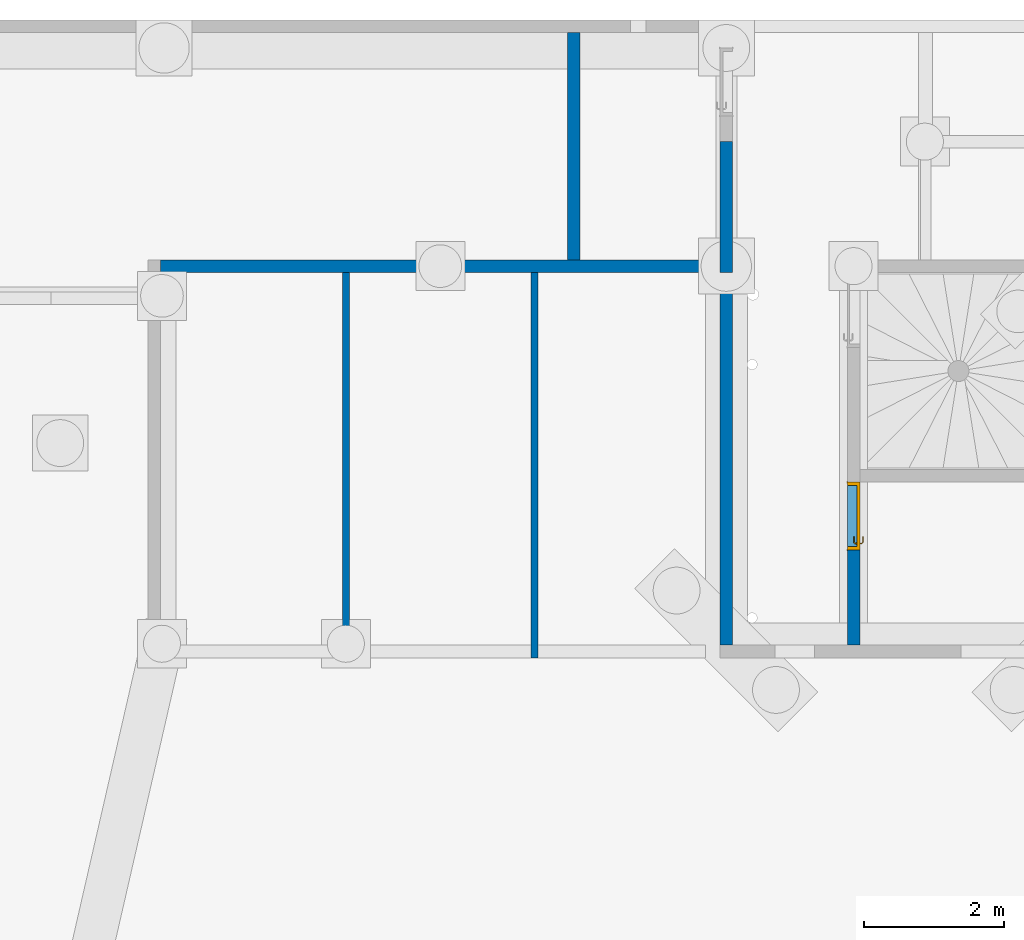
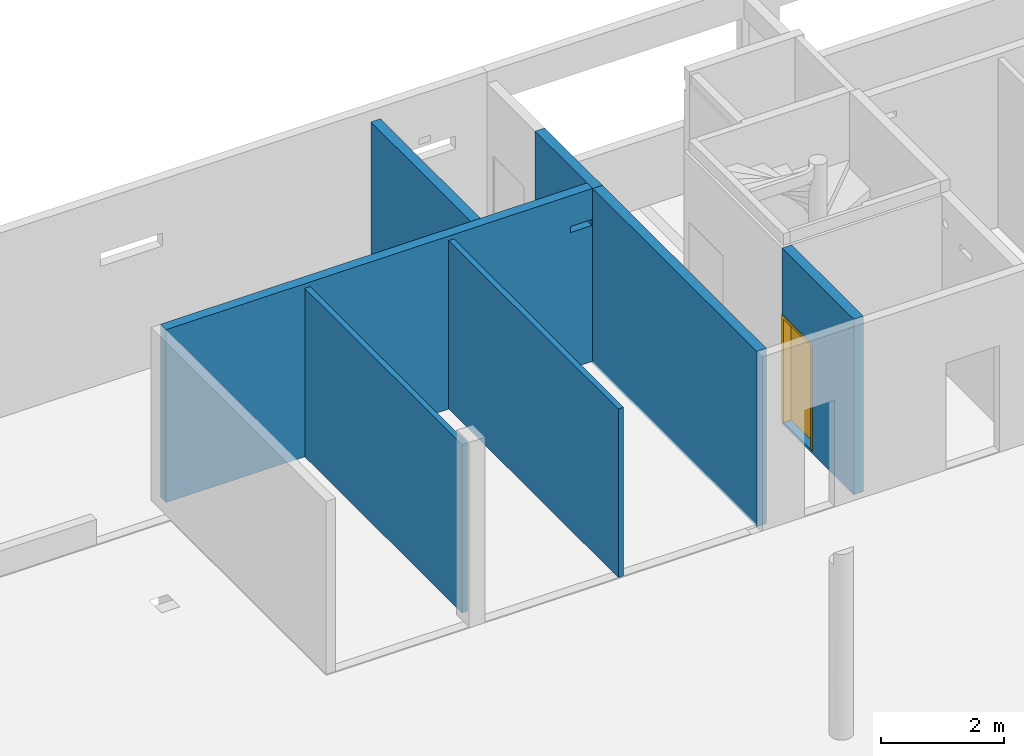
# One storey, part 5 of 29: 7 walls, 1 door, 2 openings.
"""IFC2X3 building model written with IfcOpenShell, lengths in centimetres."""

from ifc_helpers import new_model, entity, si_unit, converted_unit, derived_unit, direction, frame, frame_2d, origin, place, context, subcontext, project, spatial, rectangle, extrude, faceted_brep, source, transform, mapped, material, material_list, layer, layer_set, layer_usage, type_object, type_shapes, element, fill, save


model = new_model("IFC2X3")

# Units and contexts
model_context = context("Model", 3, precision=0.001, world=origin(), true_north=direction((6.12303176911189e-17, 1.0)))
body_context = subcontext(model_context, "Body", "Model", "MODEL_VIEW")
ifc_project = project(units=[si_unit("LENGTHUNIT", "METRE", prefix="CENTI"), si_unit("AREAUNIT", "SQUARE_METRE"), si_unit("VOLUMEUNIT", "CUBIC_METRE"), converted_unit("PLANEANGLEUNIT", "DEGREE", entity("IfcRatioMeasure", 0.0174532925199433), si_unit("PLANEANGLEUNIT", "RADIAN"), dimensions=[0, 0, 0, 0, 0, 0, 0]), si_unit("MASSUNIT", "GRAM", prefix="KILO"), derived_unit("MASSDENSITYUNIT", [(si_unit("MASSUNIT", "GRAM", prefix="KILO"), 1), (si_unit("LENGTHUNIT", "METRE"), -3)]), si_unit("TIMEUNIT", "SECOND"), si_unit("FREQUENCYUNIT", "HERTZ"), si_unit("THERMODYNAMICTEMPERATUREUNIT", "DEGREE_CELSIUS"), derived_unit("THERMALTRANSMITTANCEUNIT", [(si_unit("MASSUNIT", "GRAM", prefix="KILO"), 1), (si_unit("THERMODYNAMICTEMPERATUREUNIT", "KELVIN"), -1), (si_unit("TIMEUNIT", "SECOND"), -3)]), derived_unit("VOLUMETRICFLOWRATEUNIT", [(si_unit("LENGTHUNIT", "METRE"), 3), (si_unit("TIMEUNIT", "SECOND"), -1)]), si_unit("ELECTRICCURRENTUNIT", "AMPERE"), si_unit("ELECTRICVOLTAGEUNIT", "VOLT"), si_unit("POWERUNIT", "WATT"), si_unit("FORCEUNIT", "NEWTON"), si_unit("ILLUMINANCEUNIT", "LUX"), si_unit("LUMINOUSFLUXUNIT", "LUMEN"), si_unit("LUMINOUSINTENSITYUNIT", "CANDELA"), derived_unit("USERDEFINED", [(si_unit("MASSUNIT", "GRAM", prefix="KILO"), -1), (si_unit("LENGTHUNIT", "METRE"), -2), (si_unit("TIMEUNIT", "SECOND"), 3), (si_unit("LUMINOUSFLUXUNIT", "LUMEN"), 1)]), derived_unit("LINEARVELOCITYUNIT", [(si_unit("LENGTHUNIT", "METRE"), 1), (si_unit("TIMEUNIT", "SECOND"), -1)]), si_unit("PRESSUREUNIT", "PASCAL"), derived_unit("USERDEFINED", [(si_unit("LENGTHUNIT", "METRE"), -2), (si_unit("MASSUNIT", "GRAM", prefix="KILO"), 1), (si_unit("TIMEUNIT", "SECOND"), -2)])], contexts=[model_context])

# Site, building, storey
site_placement = place(None, origin())
site = spatial("IfcSite", under=ifc_project, at=site_placement, Name="Default", CompositionType="ELEMENT")
building_placement = place(site_placement, origin())
building = spatial("IfcBuilding", under=site, at=building_placement, Name="CAGE 03", CompositionType="ELEMENT")
storey_placement = place(building_placement, frame((0.0, 0.0, -26.0)))
storey = spatial("IfcBuildingStorey", under=building, at=storey_placement, Name="+3.74", CompositionType="ELEMENT", Elevation=-26.0000000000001)

# Walls
ifc_material_1 = material(Name="Béton, C25/30")
ifc_layer_1 = layer(ifc_material_1, 18.0)
ifc_layer_set_1 = layer_set([ifc_layer_1], Name="Mur de base:Voile BA 18")
ifc_layer_usage_1 = layer_usage(ifc_layer_set_1, "AXIS2", "NEGATIVE", 9.0)
wall_type_1 = type_object("IfcWallType", Name="Mur de base:Voile BA 18", PredefinedType="STANDARD", material=ifc_layer_set_1)
wall_1_placement = place(storey_placement, frame((6840.36582014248, 5119.6606660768, -5.0), z_axis=(0.0, 0.0, 1.0), x_axis=(0.0, -1.0, 0.0)))
element("IfcWallStandardCase", 1, at=wall_1_placement, inside=storey, type_object=wall_type_1, material=ifc_layer_usage_1, Name="Mur de base:Voile BA 18", ObjectType="Mur de base:Voile BA 18", context=body_context, shape_type="SweptSolid", body=[
    extrude(rectangle(XDim=187.0, YDim=17.9999999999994, at=frame_2d((93.5, -1.03916875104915e-13), x_axis=(-1.0, 0.0))), origin(), (0.0, 0.0, 1.0), 348.0),
])
ifc_layer_usage_2 = layer_usage(ifc_layer_set_1, "AXIS2", "POSITIVE", -9.0)
wall_2_placement = place(storey_placement, frame((6622.36582014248, 4950.6606660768, 0.0), z_axis=(0.0, 0.0, 1.0), x_axis=(0.0, 1.0, 0.0)))
element("IfcWallStandardCase", 2, at=wall_2_placement, inside=storey, type_object=wall_type_1, material=ifc_layer_usage_2, Name="Mur de base:Voile BA 18", ObjectType="Mur de base:Voile BA 18", context=body_context, shape_type="SweptSolid", body=[
    extrude(rectangle(XDim=324.999999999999, YDim=17.9999999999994, at=frame_2d((162.499999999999, 2.97539770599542e-13), x_axis=(-1.0, 0.0))), origin(), (0.0, 0.0, 1.0), 343.0),
])

# Wall, opening
ifc_layer_usage_3 = layer_usage(ifc_layer_set_1, "AXIS2", "NEGATIVE", 9.0)
wall_3_placement = place(storey_placement, frame((6831.36582014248, 4941.6606660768, 0.0), z_axis=(0.0, 0.0, 1.0), x_axis=(-1.0, 0.0, 0.0)))
wall_3 = element("IfcWallStandardCase", 3, at=wall_3_placement, inside=storey, type_object=wall_type_1, material=ifc_layer_usage_3, Name="Mur de base:Voile BA 18", ObjectType="Mur de base:Voile BA 18", context=body_context, shape_type="SweptSolid", body=[
    extrude(rectangle(XDim=799.999999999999, YDim=17.9999999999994, at=frame_2d((400.0, -5.59552404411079e-14), x_axis=(-1.0, 0.0))), origin(), (0.0, 0.0, 1.0), 343.0),
])
opening_1_placement = place(storey_placement, frame((6831.36582014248, 4941.6606660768, 0.0), z_axis=(0.0, 0.0, 1.0), x_axis=(-1.0, 0.0, 0.0)))
element("IfcOpeningElement", 4, at=opening_1_placement, cuts=wall_3, Name="Mur de base:Voile BA 18:1", ObjectType="Opening", context=body_context, shape_type="SweptSolid", body=[
    extrude(rectangle(XDim=18.0000000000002, YDim=39.9999999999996, at=frame_2d((8.66862137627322e-13, 8.66862137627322e-13), x_axis=(1.0, 0.0))), frame((21.7507290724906, 0.0, 269.951580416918), z_axis=(0.0, 0.0, 1.0), x_axis=(0.0, -1.0, 0.0)), (0.0, 0.0, 1.0), 12.0),
])

# Wall, opening, door
ifc_layer_usage_4 = layer_usage(ifc_layer_set_1, "AXIS2", "POSITIVE", -9.0)
wall_4_placement = place(storey_placement, frame((7022.36582014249, 4632.6606660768, -5.0), z_axis=(0.0, 0.0, 1.0), x_axis=(0.0, -1.0, 0.0)))
wall_4 = element("IfcWallStandardCase", 5, at=wall_4_placement, inside=storey, type_object=wall_type_1, material=ifc_layer_usage_4, Name="Mur de base:Voile BA 18", ObjectType="Mur de base:Voile BA 18", context=body_context, shape_type="SweptSolid", body=[
    extrude(rectangle(XDim=233.000000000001, YDim=17.9999999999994, at=frame_2d((116.5, 2.1138646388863e-13), x_axis=(-1.0, 0.0))), origin(), (0.0, 0.0, 1.0), 348.0),
])
opening_2_placement = place(wall_4_placement, frame((0.0, -9.0, 5.0)))
opening_2 = element("IfcOpeningElement", 6, at=opening_2_placement, cuts=wall_4, Name="Int. Simple:HB93:1", ObjectType="Opening", context=body_context, shape_type="SweptSolid", body=[
    extrude(rectangle(XDim=210.000000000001, YDim=96.9999999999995, at=frame_2d((105.000000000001, 48.4999999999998), x_axis=(1.0, 0.0))), frame((0.0, 0.0, 0.0), z_axis=(0.0, 1.0, 0.0), x_axis=(0.0, 0.0, 1.0)), (0.0, 0.0, 1.0), 18.0),
])
ifc_material_2 = material(Name="Finition Peinture - Blanc satiné")
ifc_material_3 = material(Name="Bois - Panneau de porte")
ifc_material_4 = material(Name="Bois - Cadre de porte")
ifc_material_list_1 = material_list([ifc_material_2, ifc_material_3, ifc_material_4])
ifc_material_list_2 = material_list([ifc_material_2, ifc_material_3, ifc_material_4])
door_style = type_object("IfcDoorStyle", Name="HB93", ConstructionType="NOTDEFINED", OperationType="SINGLE_SWING_LEFT", ParameterTakesPrecedence=False, Sizeable=False, material=ifc_material_list_2)
shared_shape = source(origin(), body_context, "Body", "Brep", [
    faceted_brep([(10.5352761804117, -0.500000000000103, 86.6003983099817), (11.5000000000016, -0.500000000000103, 87.0), (11.5000000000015, -0.500000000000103, 108.0), (10.5352761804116, -0.500000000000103, 108.399601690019), (9.50000000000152, -0.500000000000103, 108.535898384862), (8.46472381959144, -0.500000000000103, 108.399601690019), (7.50000000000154, -0.500000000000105, 108.0), (7.50000000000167, -0.500000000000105, 87.0), (8.46472381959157, -0.500000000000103, 86.6003983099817), (9.50000000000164, -0.500000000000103, 86.464101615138), (10.5352761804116, 0.0, 108.399601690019), (11.5000000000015, 0.0, 108.0), (11.5000000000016, 0.0, 87.0), (10.5352761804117, 0.0, 86.6003983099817), (9.50000000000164, 0.0, 86.464101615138), (8.46472381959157, 0.0, 86.6003983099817), (7.50000000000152, 0.0, 87.0), (7.50000000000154, 0.0, 108.0), (8.46472381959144, 0.0, 108.399601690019), (9.50000000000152, 0.0, 108.535898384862)], [[[0, 1, 2, 3, 4, 5, 6, 7, 8, 9]], [[10, 11, 12, 13, 14, 15, 16, 17, 18, 19]], [[16, 15, 8, 7]], [[8, 15, 14, 9]], [[14, 13, 0, 9]], [[13, 12, 1, 0]], [[2, 1, 12, 11]], [[11, 10, 3, 2]], [[3, 10, 19, 4]], [[19, 18, 5, 4]], [[18, 17, 6, 5]], [[7, 6, 17, 16]]]),
    faceted_brep([(10.5352761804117, 4.0, 86.6003983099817), (11.5000000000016, 4.0, 87.0), (11.5000000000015, 4.0, 108.0), (10.5352761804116, 4.0, 108.399601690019), (9.50000000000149, 4.0, 108.535898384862), (8.46472381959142, 4.0, 108.399601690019), (7.50000000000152, 4.0, 108.0), (7.50000000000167, 4.0, 87.0), (8.46472381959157, 4.0, 86.6003983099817), (9.50000000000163, 4.0, 86.464101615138), (10.5352761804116, 4.49999999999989, 108.399601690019), (11.5000000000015, 4.4999999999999, 108.0), (11.5000000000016, 4.4999999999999, 87.0), (10.5352761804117, 4.49999999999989, 86.6003983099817), (9.50000000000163, 4.49999999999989, 86.464101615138), (8.46472381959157, 4.49999999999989, 86.6003983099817), (7.50000000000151, 4.49999999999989, 87.0), (7.50000000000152, 4.49999999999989, 108.0), (8.46472381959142, 4.49999999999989, 108.399601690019), (9.50000000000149, 4.49999999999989, 108.535898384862)], [[[0, 1, 2, 3, 4, 5, 6, 7, 8, 9]], [[10, 11, 12, 13, 14, 15, 16, 17, 18, 19]], [[11, 10, 3, 2]], [[3, 10, 19, 4]], [[19, 18, 5, 4]], [[18, 17, 6, 5]], [[7, 6, 17, 16]], [[16, 15, 8, 7]], [[8, 15, 14, 9]], [[14, 13, 0, 9]], [[13, 12, 1, 0]], [[2, 1, 12, 11]]]),
    faceted_brep([(9.29747013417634, -0.500000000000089, 100.778044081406), (9.70252986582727, -0.500000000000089, 100.778044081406), (10.1000000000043, -0.500000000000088, 100.699999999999), (10.1000000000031, -0.500000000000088, 99.3000000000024), (9.70252986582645, -0.500000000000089, 99.2219559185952), (9.29747013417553, -0.500000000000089, 99.221955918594), (8.89999999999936, -0.500000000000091, 99.2999999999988), (8.89999999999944, -0.500000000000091, 100.7), (8.89999999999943, -3.26509507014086, 100.7), (9.29747013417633, -3.10045754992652, 100.778044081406), (10.9023585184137, -4.70534593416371, 100.778044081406), (11.0701397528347, -4.30028620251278, 100.778044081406), (9.70252986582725, -2.93267631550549, 100.778044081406), (10.1000000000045, -2.76803879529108, 100.7), (10.1000000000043, -2.76803879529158, 99.3000000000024), (9.70252986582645, -2.93267631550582, 99.2219559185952), (11.0701397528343, -4.30028620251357, 99.2219559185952), (10.9023585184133, -4.70534593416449, 99.221955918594), (9.29747013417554, -3.10045754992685, 99.221955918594), (8.89999999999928, -3.26509507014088, 99.2999999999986), (10.7377209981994, -5.1028160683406, 100.7), (11.2347772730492, -3.90281606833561, 100.7), (11.2347772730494, -3.90281606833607, 99.3000000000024), (10.7377209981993, -5.10281606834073, 99.2999999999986), (19.5018640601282, -5.1028160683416, 99.2999999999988), (19.5018640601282, -4.70534593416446, 99.221955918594), (19.5018640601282, -4.30028620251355, 99.2219559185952), (19.5018640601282, -3.90281606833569, 99.3000000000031), (19.5018640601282, -3.90281606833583, 100.7), (19.5018640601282, -4.30028620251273, 100.778044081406), (19.5018640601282, -4.70534593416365, 100.778044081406), (19.5018640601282, -5.10281606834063, 100.699999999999), (14.7307697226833, -5.10281606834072, 100.7), (15.28600190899, -4.5028160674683, 100.78786867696), (15.3683206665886, -3.9028160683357, 100.7), (15.3683206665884, -3.90281606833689, 99.3000000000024), (15.2860018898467, -4.50281607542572, 99.2121313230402), (14.7307700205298, -5.10281606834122, 99.2999999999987)], [[[0, 1, 2, 3, 4, 5, 6, 7]], [[8, 9, 0, 7]], [[9, 10, 11, 12, 1, 0]], [[12, 13, 2, 1]], [[3, 2, 13, 14]], [[14, 15, 4, 3]], [[15, 16, 17, 18, 5, 4]], [[18, 19, 6, 5]], [[7, 6, 19, 8]], [[20, 10, 9, 8]], [[11, 21, 13, 12]], [[14, 13, 21, 22]], [[22, 16, 15, 14]], [[17, 23, 19, 18]], [[8, 19, 23, 20]], [[24, 25, 26, 27, 28, 29, 30, 31]], [[32, 30, 33]], [[31, 30, 32]], [[10, 20, 32]], [[33, 34, 11]], [[21, 11, 34]], [[34, 29, 28]], [[30, 29, 33]], [[29, 34, 33]], [[10, 32, 33]], [[10, 33, 11]], [[22, 21, 34, 28, 27, 35]], [[35, 26, 36]], [[37, 36, 25]], [[22, 35, 16]], [[35, 27, 26]], [[24, 37, 25]], [[23, 17, 37]], [[37, 17, 36]], [[17, 16, 36]], [[16, 35, 36]], [[25, 36, 26]], [[20, 23, 37, 24, 31, 32]]]),
    faceted_brep([(9.29747013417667, 4.49999999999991, 100.778044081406), (8.89999999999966, 4.49999999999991, 100.7), (8.89999999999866, 4.49999999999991, 99.2999999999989), (9.2974701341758, 4.49999999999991, 99.221955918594), (9.70252986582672, 4.49999999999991, 99.2219559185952), (10.1000000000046, 4.49999999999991, 99.3000000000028), (10.1000000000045, 4.49999999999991, 100.7), (9.70252986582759, 4.49999999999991, 100.778044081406), (10.1000000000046, 6.7485204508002, 99.3000000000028), (10.1000000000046, 6.74852045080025, 100.7), (9.70252986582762, 6.91315797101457, 100.778044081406), (11.0838906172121, 8.29451872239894, 100.778044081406), (10.9161093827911, 8.69957845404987, 100.778044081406), (9.29747013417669, 7.0809392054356, 100.778044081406), (8.89999999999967, 7.24557672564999, 100.7), (8.89999999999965, 7.24557672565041, 99.2999999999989), (9.29747013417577, 7.08093920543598, 99.221955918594), (10.9161093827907, 8.69957845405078, 99.221955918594), (11.0838906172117, 8.29451872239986, 99.2219559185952), (9.7025298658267, 6.91315797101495, 99.2219559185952), (11.2485281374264, 7.89704858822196, 99.3000000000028), (11.2485281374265, 7.89704858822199, 100.7), (10.7514718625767, 9.0970485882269, 100.7), (10.751471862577, 9.0970485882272, 99.2999999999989), (19.504578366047, 7.89704858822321, 99.3000000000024), (19.504578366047, 8.29451872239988, 99.2219559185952), (19.504578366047, 8.6995784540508, 99.221955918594), (19.504578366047, 9.09704858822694, 99.2999999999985), (19.504578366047, 9.09704858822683, 100.7), (19.504578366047, 8.69957845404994, 100.778044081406), (19.504578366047, 8.29451872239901, 100.778044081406), (19.504578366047, 7.89704858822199, 100.7), (15.3765520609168, 7.89704858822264, 99.3000000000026), (15.3765532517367, 7.89704858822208, 100.7), (15.294234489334, 8.49704858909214, 100.78786867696), (14.7445205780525, 9.09704858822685, 100.7), (14.7445204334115, 9.09704858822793, 99.2999999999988), (15.2942345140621, 8.49704858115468, 99.2121313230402)], [[[0, 1, 2, 3, 4, 5, 6, 7]], [[6, 5, 8, 9]], [[9, 10, 7, 6]], [[10, 11, 12, 13, 0, 7]], [[13, 14, 1, 0]], [[2, 1, 14, 15]], [[15, 16, 3, 2]], [[16, 17, 18, 19, 4, 3]], [[19, 8, 5, 4]], [[9, 8, 20, 21]], [[21, 11, 10, 9]], [[12, 22, 14, 13]], [[15, 14, 22, 23]], [[23, 17, 16, 15]], [[18, 20, 8, 19]], [[24, 25, 26, 27, 28, 29, 30, 31]], [[21, 20, 32, 24, 31, 33]], [[33, 30, 34]], [[35, 34, 29]], [[21, 33, 11]], [[33, 31, 30]], [[28, 35, 29]], [[22, 12, 35]], [[35, 12, 34]], [[12, 11, 34]], [[11, 33, 34]], [[29, 34, 30]], [[22, 35, 28, 27, 36, 23]], [[36, 26, 37]], [[27, 26, 36]], [[17, 23, 36]], [[37, 32, 18]], [[20, 18, 32]], [[32, 25, 24]], [[26, 25, 37]], [[25, 32, 37]], [[17, 36, 37]], [[17, 37, 18]]]),
    faceted_brep([(3.50000000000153, 4.0, 206.5), (93.5000000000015, 4.0, 206.5), (93.5000000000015, 4.0, 0.0), (3.50000000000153, 4.0, 0.0), (3.50000000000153, 0.0, 206.5), (3.50000000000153, 0.0, 0.0), (93.5000000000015, 0.0, 0.0), (93.5000000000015, 0.0, 206.5)], [[[0, 1, 2, 3]], [[4, 5, 6, 7]], [[1, 0, 4, 7]], [[2, 1, 7, 6]], [[3, 2, 6, 5]], [[0, 3, 5, 4]]]),
    faceted_brep([(0.0, 0.0, 0.0), (0.0, 18.0, 0.0), (5.0, 18.0, 0.0), (5.0, 4.0, 0.0), (3.50000000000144, 4.0, 0.0), (3.50000000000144, 0.0, 0.0), (0.0, 0.0, 210.0), (0.0, 18.0, 210.0), (97.0, 18.0, 210.0), (97.0, 18.0, 0.0), (92.0, 18.0, 0.0), (92.0, 18.0, 205.0), (5.0, 18.0, 205.0), (5.0, 4.0, 205.0), (92.0, 4.0, 205.0), (92.0, 4.0, 0.0), (93.4999999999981, 4.0, 0.0), (93.4999999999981, 4.0, 206.5), (3.50000000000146, 4.0, 206.5), (3.50000000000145, 0.0, 206.5), (93.4999999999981, 0.0, 206.5), (93.4999999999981, 0.0, 0.0), (97.0, 0.0, 0.0), (97.0, 0.0, 210.0)], [[[0, 1, 2, 3, 4, 5]], [[1, 0, 6, 7]], [[2, 1, 7, 8, 9, 10, 11, 12]], [[3, 2, 12, 13]], [[4, 3, 13, 14, 15, 16, 17, 18]], [[5, 4, 18, 19]], [[0, 5, 19, 20, 21, 22, 23, 6]], [[8, 23, 22, 9]], [[22, 21, 16, 15, 10, 9]], [[14, 11, 10, 15]], [[20, 17, 16, 21]], [[7, 6, 23, 8]], [[13, 12, 11, 14]], [[19, 18, 17, 20]]]),
    faceted_brep([(1.5, 18.0, 0.0), (-1.49999999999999, 18.0, 0.0), (-1.49999999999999, 18.5000000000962, 0.0), (1.5, 18.5000000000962, 0.0), (1.5, 18.0, 208.500000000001), (95.4999999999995, 18.0, 208.500000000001), (95.4999999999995, 18.0, 0.0), (98.4999999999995, 18.0, 0.0), (98.4999999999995, 18.0, 211.500000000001), (-1.49999999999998, 18.0, 211.500000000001), (-1.49999999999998, 18.5000000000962, 211.500000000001), (98.4999999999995, 18.5000000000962, 211.500000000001), (98.4999999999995, 18.5000000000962, 0.0), (95.4999999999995, 18.5000000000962, 0.0), (95.4999999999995, 18.5000000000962, 208.500000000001), (1.50000000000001, 18.5000000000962, 208.500000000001)], [[[0, 1, 2, 3]], [[1, 0, 4, 5, 6, 7, 8, 9]], [[2, 1, 9, 10]], [[3, 2, 10, 11, 12, 13, 14, 15]], [[0, 3, 15, 4]], [[6, 13, 12, 7]], [[5, 14, 13, 6]], [[11, 8, 7, 12]], [[10, 9, 8, 11]], [[4, 15, 14, 5]]]),
    faceted_brep([(-1.49999999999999, -0.5, 0.0), (1.5, -0.5, 0.0), (1.5, -0.5, 208.500000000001), (95.4999999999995, -0.5, 208.500000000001), (95.4999999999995, -0.5, 0.0), (98.4999999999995, -0.5, 0.0), (98.4999999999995, -0.5, 211.500000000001), (-1.49999999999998, -0.5, 211.500000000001), (-1.49999999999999, 0.0, 0.0), (-1.49999999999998, 0.0, 211.500000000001), (1.5, 0.0, 0.0), (98.4999999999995, 0.0, 211.500000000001), (98.4999999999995, 0.0, 0.0), (95.4999999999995, 0.0, 0.0), (95.4999999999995, 0.0, 208.500000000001), (1.50000000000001, 0.0, 208.500000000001)], [[[0, 1, 2, 3, 4, 5, 6, 7]], [[8, 0, 7, 9]], [[10, 8, 9, 11, 12, 13, 14, 15]], [[1, 10, 15, 2]], [[3, 14, 13, 4]], [[11, 6, 5, 12]], [[9, 7, 6, 11]], [[2, 15, 14, 3]], [[4, 13, 12, 5]], [[1, 0, 8, 10]]]),
])
type_shapes(door_style, [shared_shape])
door_placement = place(opening_2_placement, frame((97.0, 18.0, 0.0), z_axis=(0.0, 0.0, 1.0), x_axis=(-1.0, 0.0, 0.0)))
door = element("IfcDoor", 7, at=door_placement, inside=storey, type_object=door_style, material=ifc_material_list_1, Name="Int. Simple:HB93", ObjectType="HB93", OverallHeight=210.000000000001, OverallWidth=96.9999999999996, context=body_context, shape_type="MappedRepresentation", body=[
    mapped(shared_shape, transform((0.0, 0.0, 0.0), scale=1.0)),
])
fill(opening_2, door)

# Walls
ifc_layer_usage_5 = layer_usage(ifc_layer_set_1, "AXIS2", "NEGATIVE", 9.0)
wall_5_placement = place(storey_placement, frame((6840.36582014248, 4941.6606660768, -5.0), z_axis=(0.0, 0.0, 1.0), x_axis=(0.0, -1.0, 0.0)))
element("IfcWallStandardCase", 8, at=wall_5_placement, inside=storey, type_object=wall_type_1, material=ifc_layer_usage_5, Name="Mur de base:Voile BA 18", ObjectType="Mur de base:Voile BA 18", context=body_context, shape_type="SweptSolid", body=[
    extrude(rectangle(XDim=542.000000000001, YDim=18.0000000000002, at=frame_2d((271.0, -3.01980662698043e-13), x_axis=(-1.0, 0.0))), origin(), (0.0, 0.0, 1.0), 348.0),
])
ifc_material_5 = material(Name="Bloc béton")
ifc_layer_2 = layer(ifc_material_5, 10.0)
ifc_layer_set_2 = layer_set([ifc_layer_2], Name="Mur de base:Int. Parpaing 100 mm")
ifc_layer_usage_6 = layer_usage(ifc_layer_set_2, "AXIS2", "NEGATIVE", 5.0)
wall_type_2 = type_object("IfcWallType", Name="Mur de base:Int. Parpaing 100 mm", PredefinedType="STANDARD", material=ifc_layer_set_2)
wall_6_placement = place(storey_placement, frame((6296.36582014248, 4421.6606660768, 0.0), z_axis=(0.0, 0.0, 1.0), x_axis=(0.0, 1.0, 0.0)))
element("IfcWallStandardCase", 9, at=wall_6_placement, inside=storey, type_object=wall_type_2, material=ifc_layer_usage_6, Name="Mur de base:Int. Parpaing 100 mm", ObjectType="Mur de base:Int. Parpaing 100 mm", context=body_context, shape_type="SweptSolid", body=[
    extrude(rectangle(XDim=511.000000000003, YDim=9.99999999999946, at=frame_2d((255.500000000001, 1.06137321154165e-13), x_axis=(-1.0, 0.0))), origin(), (0.0, 0.0, 1.0), 334.0),
])
ifc_layer_usage_7 = layer_usage(ifc_layer_set_2, "AXIS2", "NEGATIVE", 5.0)
wall_7_placement = place(storey_placement, frame((6566.36582014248, 4381.6606660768, 0.0), z_axis=(0.0, 0.0, 1.0), x_axis=(0.0, 1.0, 0.0)))
element("IfcWallStandardCase", 10, at=wall_7_placement, inside=storey, type_object=wall_type_2, material=ifc_layer_usage_7, Name="Mur de base:Int. Parpaing 100 mm", ObjectType="Mur de base:Int. Parpaing 100 mm", context=body_context, shape_type="SweptSolid", body=[
    extrude(rectangle(XDim=551.000000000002, YDim=9.99999999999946, at=frame_2d((275.500000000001, 1.48325796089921e-13), x_axis=(-1.0, 0.0))), origin(), (0.0, 0.0, 1.0), 334.0),
])

save(model, "model.ifc")
